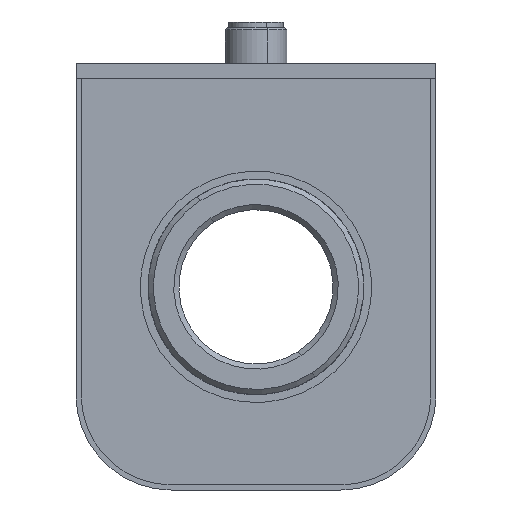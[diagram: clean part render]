
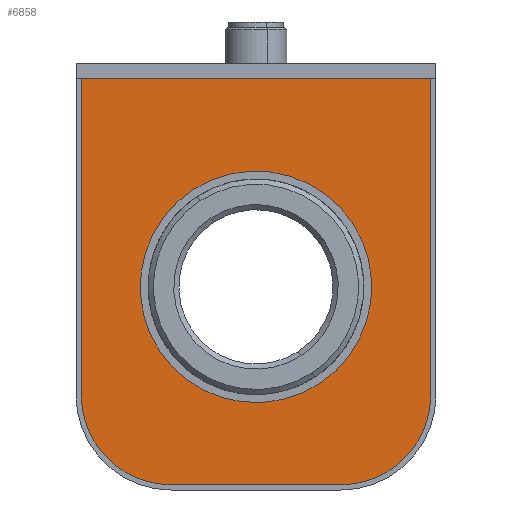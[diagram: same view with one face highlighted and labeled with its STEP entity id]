
A CAD part, front view. The second image highlights one B-rep face of the part: STEP entity #6858.
In plain terms, the highlighted planar face has unit normal (0, -1, 0) as drawn and (0, 0, -1) by its records, which use the part's own axes.
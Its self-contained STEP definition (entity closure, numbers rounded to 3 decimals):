
#718 = DIRECTION ( 'NONE',  ( 1., 0., 0. ) ) ;
#766 = DIRECTION ( 'NONE',  ( 0., 0., 1. ) ) ;
#820 = EDGE_LOOP ( 'NONE', ( #7776, #4570, #10299, #8435, #8309, #7772 ) ) ;
#831 = CARTESIAN_POINT ( 'NONE',  ( 16.5, 38.5, 0. ) ) ;
#962 = EDGE_CURVE ( 'NONE', #4998, #7380, #2701, .T. ) ;
#979 = CIRCLE ( 'NONE', #11378, 17.8 ) ;
#1088 = LINE ( 'NONE', #8573, #7088 ) ;
#1193 = ORIENTED_EDGE ( 'NONE', *, *, #1344, .T. ) ;
#1344 = EDGE_CURVE ( 'NONE', #11428, #9903, #979, .T. ) ;
#1879 = DIRECTION ( 'NONE',  ( 0., 1., 0. ) ) ;
#1882 = EDGE_CURVE ( 'NONE', #6287, #15151, #6210, .T. ) ;
#2701 = LINE ( 'NONE', #10551, #11785 ) ;
#2902 = ORIENTED_EDGE ( 'NONE', *, *, #10604, .T. ) ;
#3195 = CARTESIAN_POINT ( 'NONE',  ( 0., 17.5, 0. ) ) ;
#3330 = FACE_BOUND ( 'NONE', #6814, .T. ) ;
#3605 = CARTESIAN_POINT ( 'NONE',  ( 50.5, 17.5, 0. ) ) ;
#4229 = AXIS2_PLACEMENT_3D ( 'NONE', #3195, #8005, #12911 ) ;
#4265 = VECTOR ( 'NONE', #9775, 1000. ) ;
#4570 = ORIENTED_EDGE ( 'NONE', *, *, #10750, .F. ) ;
#4650 = LINE ( 'NONE', #8581, #4265 ) ;
#4674 = EDGE_CURVE ( 'NONE', #4912, #4998, #4689, .T. ) ;
#4689 = CIRCLE ( 'NONE', #4229, 17.5 ) ;
#4770 = AXIS2_PLACEMENT_3D ( 'NONE', #6739, #15018, #7960 ) ;
#4912 = VERTEX_POINT ( 'NONE', #5733 ) ;
#4998 = VERTEX_POINT ( 'NONE', #12983 ) ;
#5006 = DIRECTION ( 'NONE',  ( -1., 0., 0. ) ) ;
#5147 = EDGE_CURVE ( 'NONE', #15151, #12556, #1088, .T. ) ;
#5439 = CARTESIAN_POINT ( 'NONE',  ( 50.5, 79., 0. ) ) ;
#5514 = AXIS2_PLACEMENT_3D ( 'NONE', #5947, #14214, #7132 ) ;
#5733 = CARTESIAN_POINT ( 'NONE',  ( -17.5, 17.5, 0. ) ) ;
#5818 = DIRECTION ( 'NONE',  ( 1., 0., 0. ) ) ;
#5947 = CARTESIAN_POINT ( 'NONE',  ( 16.5, 38.5, 0. ) ) ;
#6210 = LINE ( 'NONE', #7597, #12110 ) ;
#6287 = VERTEX_POINT ( 'NONE', #3605 ) ;
#6315 = DIRECTION ( 'NONE',  ( 1., 0., 0. ) ) ;
#6739 = CARTESIAN_POINT ( 'NONE',  ( 33., 17.5, 0. ) ) ;
#6814 = EDGE_LOOP ( 'NONE', ( #2902, #1193 ) ) ;
#6858 = ADVANCED_FACE ( 'NONE', ( #12009, #3330 ), #12181, .F. ) ;
#7088 = VECTOR ( 'NONE', #5006, 1000. ) ;
#7132 = DIRECTION ( 'NONE',  ( 1., 0., 0. ) ) ;
#7380 = VERTEX_POINT ( 'NONE', #10837 ) ;
#7597 = CARTESIAN_POINT ( 'NONE',  ( 50.5, 17.5, 0. ) ) ;
#7772 = ORIENTED_EDGE ( 'NONE', *, *, #962, .F. ) ;
#7776 = ORIENTED_EDGE ( 'NONE', *, *, #4674, .F. ) ;
#7960 = DIRECTION ( 'NONE',  ( 1., 0., 0. ) ) ;
#8005 = DIRECTION ( 'NONE',  ( 0., 0., 1. ) ) ;
#8227 = AXIS2_PLACEMENT_3D ( 'NONE', #10996, #13355, #6315 ) ;
#8309 = ORIENTED_EDGE ( 'NONE', *, *, #15210, .F. ) ;
#8435 = ORIENTED_EDGE ( 'NONE', *, *, #1882, .F. ) ;
#8573 = CARTESIAN_POINT ( 'NONE',  ( 50.5, 79., 0. ) ) ;
#8581 = CARTESIAN_POINT ( 'NONE',  ( -17.5, 79., 0. ) ) ;
#9775 = DIRECTION ( 'NONE',  ( 0., -1., 0. ) ) ;
#9903 = VERTEX_POINT ( 'NONE', #12816 ) ;
#10299 = ORIENTED_EDGE ( 'NONE', *, *, #5147, .F. ) ;
#10551 = CARTESIAN_POINT ( 'NONE',  ( 0., 0., 0. ) ) ;
#10604 = EDGE_CURVE ( 'NONE', #9903, #11428, #12394, .T. ) ;
#10750 = EDGE_CURVE ( 'NONE', #12556, #4912, #4650, .T. ) ;
#10837 = CARTESIAN_POINT ( 'NONE',  ( 33., 0., 0. ) ) ;
#10996 = CARTESIAN_POINT ( 'NONE',  ( 0., 17.5, 0. ) ) ;
#11378 = AXIS2_PLACEMENT_3D ( 'NONE', #831, #766, #718 ) ;
#11428 = VERTEX_POINT ( 'NONE', #14602 ) ;
#11785 = VECTOR ( 'NONE', #5818, 1000. ) ;
#12009 = FACE_OUTER_BOUND ( 'NONE', #820, .T. ) ;
#12110 = VECTOR ( 'NONE', #1879, 1000. ) ;
#12181 = PLANE ( 'NONE',  #8227 ) ;
#12246 = CIRCLE ( 'NONE', #4770, 17.5 ) ;
#12394 = CIRCLE ( 'NONE', #5514, 17.8 ) ;
#12556 = VERTEX_POINT ( 'NONE', #14307 ) ;
#12816 = CARTESIAN_POINT ( 'NONE',  ( -1.3, 38.5, 0. ) ) ;
#12911 = DIRECTION ( 'NONE',  ( 1., 0., 0. ) ) ;
#12983 = CARTESIAN_POINT ( 'NONE',  ( 0., 0., 0. ) ) ;
#13355 = DIRECTION ( 'NONE',  ( 0., 0., 1. ) ) ;
#14214 = DIRECTION ( 'NONE',  ( 0., 0., 1. ) ) ;
#14307 = CARTESIAN_POINT ( 'NONE',  ( -17.5, 79., 0. ) ) ;
#14602 = CARTESIAN_POINT ( 'NONE',  ( 34.3, 38.5, 0. ) ) ;
#15018 = DIRECTION ( 'NONE',  ( 0., 0., 1. ) ) ;
#15151 = VERTEX_POINT ( 'NONE', #5439 ) ;
#15210 = EDGE_CURVE ( 'NONE', #7380, #6287, #12246, .T. ) ;
